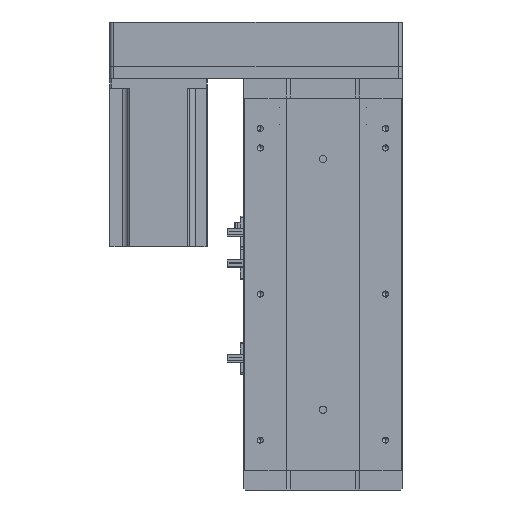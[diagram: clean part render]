
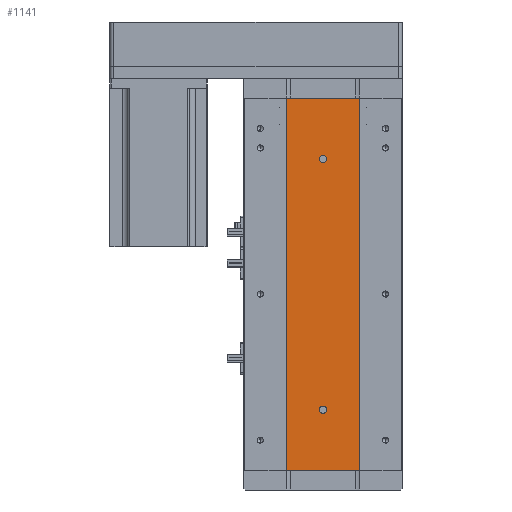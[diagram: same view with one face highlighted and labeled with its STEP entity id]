
A CAD part, left-side view. The second image highlights one B-rep face of the part: STEP entity #1141.
In plain terms, the highlighted planar face has unit normal (-1, 0, 0).
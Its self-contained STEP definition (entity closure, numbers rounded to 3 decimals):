
#110 = DIRECTION ( 'NONE',  ( -1., 0., 0. ) ) ;
#116 = DIRECTION ( 'NONE',  ( 0., -1., 0. ) ) ;
#276 = CARTESIAN_POINT ( 'NONE',  ( -21.994, 0., 259. ) ) ;
#598 = VERTEX_POINT ( 'NONE', #23734 ) ;
#1081 = VERTEX_POINT ( 'NONE', #276 ) ;
#1141 = ADVANCED_FACE ( 'NONE', ( #10547, #9512, #27202 ), #37055, .F. ) ;
#1508 = ORIENTED_EDGE ( 'NONE', *, *, #26843, .T. ) ;
#2012 = VECTOR ( 'NONE', #20689, 1000. ) ;
#2129 = LINE ( 'NONE', #7756, #27566 ) ;
#2388 = CARTESIAN_POINT ( 'NONE',  ( -21.994, 0., 47. ) ) ;
#3138 = CARTESIAN_POINT ( 'NONE',  ( -21.994, -29.785, 306. ) ) ;
#3636 = CIRCLE ( 'NONE', #37848, 3. ) ;
#4939 = VERTEX_POINT ( 'NONE', #11699 ) ;
#5069 = CARTESIAN_POINT ( 'NONE',  ( -21.994, 29.785, 306. ) ) ;
#5071 = VECTOR ( 'NONE', #116, 1000. ) ;
#5344 = EDGE_CURVE ( 'NONE', #30105, #4939, #2129, .T. ) ;
#6231 = ORIENTED_EDGE ( 'NONE', *, *, #38737, .F. ) ;
#6291 = VERTEX_POINT ( 'NONE', #5069 ) ;
#6468 = DIRECTION ( 'NONE',  ( 0., 0., -1. ) ) ;
#6606 = AXIS2_PLACEMENT_3D ( 'NONE', #32230, #12368, #35557 ) ;
#6898 = LINE ( 'NONE', #3138, #32293 ) ;
#7339 = DIRECTION ( 'NONE',  ( 0., -1., 0. ) ) ;
#7521 = DIRECTION ( 'NONE',  ( -1., 0., 0. ) ) ;
#7756 = CARTESIAN_POINT ( 'NONE',  ( -21.994, 29.785, 0. ) ) ;
#7897 = ORIENTED_EDGE ( 'NONE', *, *, #34027, .F. ) ;
#9512 = FACE_BOUND ( 'NONE', #38514, .T. ) ;
#10547 = FACE_BOUND ( 'NONE', #23482, .T. ) ;
#11699 = CARTESIAN_POINT ( 'NONE',  ( -21.994, -29.785, 0. ) ) ;
#12368 = DIRECTION ( 'NONE',  ( -1., 0., 0. ) ) ;
#13637 = EDGE_LOOP ( 'NONE', ( #31214, #15938, #17961, #1508 ) ) ;
#14243 = CIRCLE ( 'NONE', #28667, 3. ) ;
#14616 = VERTEX_POINT ( 'NONE', #38424 ) ;
#15938 = ORIENTED_EDGE ( 'NONE', *, *, #28493, .F. ) ;
#16682 = CARTESIAN_POINT ( 'NONE',  ( -21.994, 29.785, 306. ) ) ;
#16771 = AXIS2_PLACEMENT_3D ( 'NONE', #35713, #24466, #35403 ) ;
#17961 = ORIENTED_EDGE ( 'NONE', *, *, #33734, .F. ) ;
#18965 = CARTESIAN_POINT ( 'NONE',  ( -21.994, 29.785, 0. ) ) ;
#19631 = CARTESIAN_POINT ( 'NONE',  ( -21.994, 0., 50. ) ) ;
#19656 = LINE ( 'NONE', #33986, #2012 ) ;
#20029 = CARTESIAN_POINT ( 'NONE',  ( -21.994, 0., 50. ) ) ;
#20689 = DIRECTION ( 'NONE',  ( 0., 0., -1. ) ) ;
#22213 = VERTEX_POINT ( 'NONE', #38789 ) ;
#22945 = DIRECTION ( 'NONE',  ( 0., 0., 1. ) ) ;
#23353 = DIRECTION ( 'NONE',  ( 0., 0., 1. ) ) ;
#23482 = EDGE_LOOP ( 'NONE', ( #6231, #36103 ) ) ;
#23734 = CARTESIAN_POINT ( 'NONE',  ( -21.994, 0., 53. ) ) ;
#23826 = EDGE_CURVE ( 'NONE', #22213, #1081, #14243, .T. ) ;
#24466 = DIRECTION ( 'NONE',  ( 1., 0., 0. ) ) ;
#26843 = EDGE_CURVE ( 'NONE', #6291, #30105, #19656, .T. ) ;
#27202 = FACE_OUTER_BOUND ( 'NONE', #13637, .T. ) ;
#27429 = CARTESIAN_POINT ( 'NONE',  ( -21.994, 0., 256. ) ) ;
#27566 = VECTOR ( 'NONE', #7339, 1000. ) ;
#28085 = ORIENTED_EDGE ( 'NONE', *, *, #41797, .F. ) ;
#28493 = EDGE_CURVE ( 'NONE', #14616, #4939, #6898, .T. ) ;
#28667 = AXIS2_PLACEMENT_3D ( 'NONE', #27429, #7521, #30730 ) ;
#30105 = VERTEX_POINT ( 'NONE', #18965 ) ;
#30730 = DIRECTION ( 'NONE',  ( 0., 0., 1. ) ) ;
#31214 = ORIENTED_EDGE ( 'NONE', *, *, #5344, .T. ) ;
#32230 = CARTESIAN_POINT ( 'NONE',  ( -21.994, 0., 256. ) ) ;
#32293 = VECTOR ( 'NONE', #6468, 1000. ) ;
#33734 = EDGE_CURVE ( 'NONE', #6291, #14616, #40284, .T. ) ;
#33986 = CARTESIAN_POINT ( 'NONE',  ( -21.994, 29.785, 306. ) ) ;
#34027 = EDGE_CURVE ( 'NONE', #41630, #598, #36615, .T. ) ;
#34838 = CIRCLE ( 'NONE', #6606, 3. ) ;
#35403 = DIRECTION ( 'NONE',  ( 0., 0., -1. ) ) ;
#35557 = DIRECTION ( 'NONE',  ( 0., 0., 1. ) ) ;
#35713 = CARTESIAN_POINT ( 'NONE',  ( -21.994, 29.785, 306. ) ) ;
#36103 = ORIENTED_EDGE ( 'NONE', *, *, #23826, .F. ) ;
#36615 = CIRCLE ( 'NONE', #37762, 3. ) ;
#37055 = PLANE ( 'NONE',  #16771 ) ;
#37762 = AXIS2_PLACEMENT_3D ( 'NONE', #20029, #110, #23353 ) ;
#37848 = AXIS2_PLACEMENT_3D ( 'NONE', #19631, #42769, #22945 ) ;
#38424 = CARTESIAN_POINT ( 'NONE',  ( -21.994, -29.785, 306. ) ) ;
#38514 = EDGE_LOOP ( 'NONE', ( #28085, #7897 ) ) ;
#38737 = EDGE_CURVE ( 'NONE', #1081, #22213, #34838, .T. ) ;
#38789 = CARTESIAN_POINT ( 'NONE',  ( -21.994, 0., 253. ) ) ;
#40284 = LINE ( 'NONE', #16682, #5071 ) ;
#41630 = VERTEX_POINT ( 'NONE', #2388 ) ;
#41797 = EDGE_CURVE ( 'NONE', #598, #41630, #3636, .T. ) ;
#42769 = DIRECTION ( 'NONE',  ( -1., 0., 0. ) ) ;
